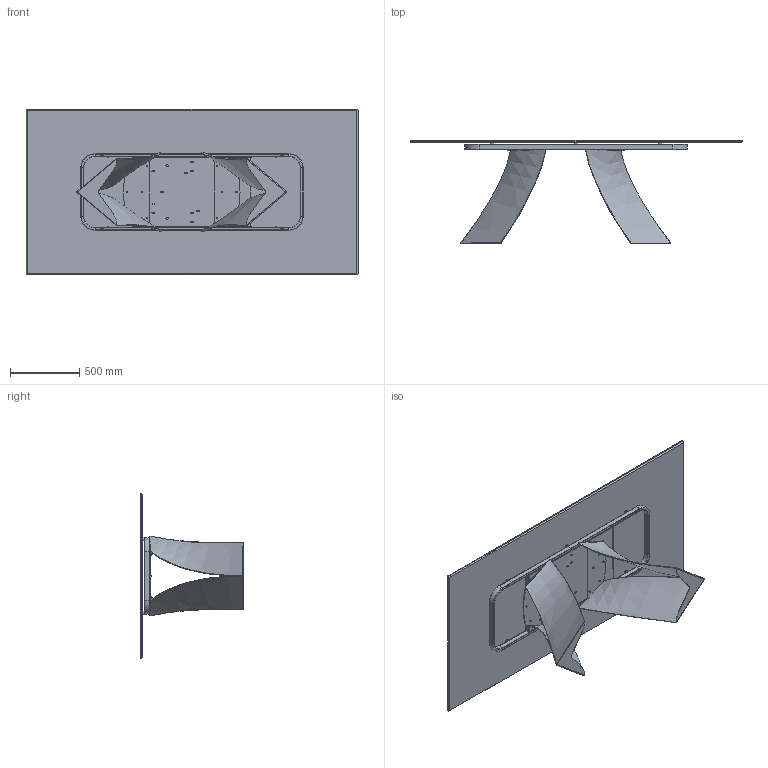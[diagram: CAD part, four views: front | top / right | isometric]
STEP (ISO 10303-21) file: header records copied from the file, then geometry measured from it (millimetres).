
FILE_DESCRIPTION (( 'STEP AP203' ), '1' );
FILE_NAME ('TW22C.STEP', '2024-08-07T12:43:22', ( '' ), ( '' ), 'SwSTEP 2.0', 'SolidWorks 2022', '' );
FILE_SCHEMA (( 'CONFIG_CONTROL_DESIGN' ));
Length unit declared in the file: millimetre
Products named in the file (9): M8xXXmm_M8x20mm; K2XCMXX-00-Piani Rettangolari in ceramica_2390 x 1190; TUBOLARE TELAIO TEMP TWIST_Default<A macchina>; TW22C; TWS000000BAS-00-TWIST BASE GREZZA; TEALIO TEMP PER MANUALE; 434070-00-PIEDINO TPV GOMMA NERO D. 30x8max18; rondella M8_8X16; TTAV01_02-01-VASSOIO IRRIGIDIMENTO TELAIO UNIVERSALE
Assembly tree (36 placements, depth 3):
  TW22C
    K2XCMXX-00-Piani Rettangolari in ceramica_2390 x 1190
    TEALIO TEMP PER MANUALE
      TUBOLARE TELAIO TEMP TWIST_Default<A macchina>
      TTAV01_02-01-VASSOIO IRRIGIDIMENTO TELAIO UNIVERSALE
    TWS000000BAS-00-TWIST BASE GREZZA  x2
    M8xXXmm_M8x20mm  x12
    rondella M8_8X16  x12
    434070-00-PIEDINO TPV GOMMA NERO D. 30x8max18  x6
Bounding box: 2390 x 741.37 x 1190 mm (x, y, z)
Volume: 55693088 mm3; surface area: 15869248.4 mm2
Topology: 57 solids, 57 shells, 1122 faces, 2618 edges, 1598 vertices
Faces by surface type: plane 438, cylinder 286, torus 200, cone 132, bspline 66
Entity records: 22873 total; most frequent: CARTESIAN_POINT 9019, DIRECTION 2569, ORIENTED_EDGE 2498, EDGE_CURVE 1249, AXIS2_PLACEMENT_3D 946, VERTEX_POINT 811, LINE 677, VECTOR 677
